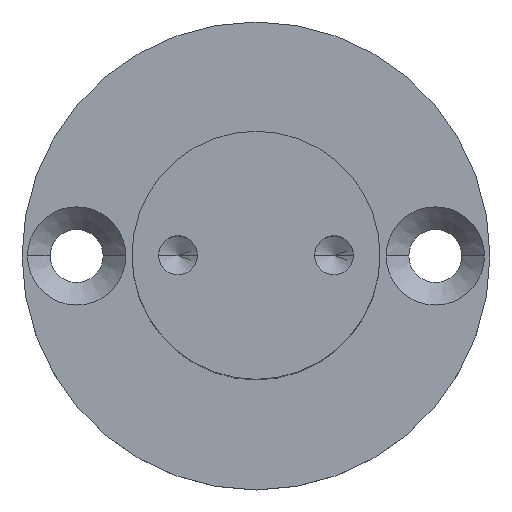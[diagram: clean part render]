
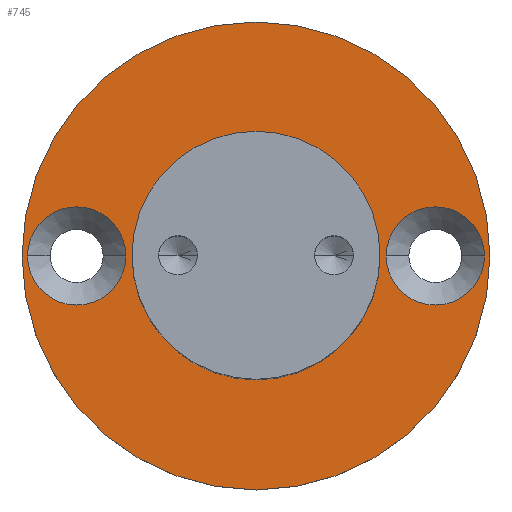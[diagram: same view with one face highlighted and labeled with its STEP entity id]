
A CAD part, top view. The second image highlights one B-rep face of the part: STEP entity #745.
In plain terms, the highlighted planar face has unit normal (0, 0, 1).
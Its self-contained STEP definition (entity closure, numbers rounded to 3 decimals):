
#30 = DIRECTION ( 'NONE',  ( 1., 0., 0. ) ) ;
#40 = VERTEX_POINT ( 'NONE', #381 ) ;
#43 = ORIENTED_EDGE ( 'NONE', *, *, #547, .T. ) ;
#44 = EDGE_CURVE ( 'NONE', #411, #563, #175, .T. ) ;
#54 = DIRECTION ( 'NONE',  ( 0., 0., 1. ) ) ;
#62 = CIRCLE ( 'NONE', #679, 7.95 ) ;
#70 = CARTESIAN_POINT ( 'NONE',  ( 7.95, 0., 5.5 ) ) ;
#88 = ORIENTED_EDGE ( 'NONE', *, *, #405, .F. ) ;
#93 = CIRCLE ( 'NONE', #768, 3.15 ) ;
#96 = ORIENTED_EDGE ( 'NONE', *, *, #733, .F. ) ;
#98 = DIRECTION ( 'NONE',  ( 1., 0., 0. ) ) ;
#105 = EDGE_LOOP ( 'NONE', ( #651, #232 ) ) ;
#115 = CARTESIAN_POINT ( 'NONE',  ( 0., 0., 5.5 ) ) ;
#125 = DIRECTION ( 'NONE',  ( 1., 0., 0. ) ) ;
#128 = AXIS2_PLACEMENT_3D ( 'NONE', #732, #246, #354 ) ;
#137 = CARTESIAN_POINT ( 'NONE',  ( -7.95, 0., 5.5 ) ) ;
#145 = CARTESIAN_POINT ( 'NONE',  ( 0., 0., 5.5 ) ) ;
#163 = DIRECTION ( 'NONE',  ( 1., 0., 0. ) ) ;
#175 = CIRCLE ( 'NONE', #527, 15. ) ;
#184 = FACE_OUTER_BOUND ( 'NONE', #608, .T. ) ;
#194 = DIRECTION ( 'NONE',  ( 0., 0., 1. ) ) ;
#202 = CARTESIAN_POINT ( 'NONE',  ( 14.65, 0., 5.5 ) ) ;
#214 = EDGE_CURVE ( 'NONE', #40, #422, #341, .T. ) ;
#229 = CARTESIAN_POINT ( 'NONE',  ( 15., 0., 5.5 ) ) ;
#230 = AXIS2_PLACEMENT_3D ( 'NONE', #115, #595, #125 ) ;
#232 = ORIENTED_EDGE ( 'NONE', *, *, #402, .F. ) ;
#233 = CARTESIAN_POINT ( 'NONE',  ( -14.65, 0., 5.5 ) ) ;
#234 = FACE_BOUND ( 'NONE', #452, .T. ) ;
#246 = DIRECTION ( 'NONE',  ( 0., 0., 1. ) ) ;
#247 = CARTESIAN_POINT ( 'NONE',  ( 11.5, 0., 5.5 ) ) ;
#250 = EDGE_CURVE ( 'NONE', #641, #602, #62, .T. ) ;
#273 = AXIS2_PLACEMENT_3D ( 'NONE', #247, #54, #541 ) ;
#283 = DIRECTION ( 'NONE',  ( 0., 0., 1. ) ) ;
#341 = CIRCLE ( 'NONE', #366, 3.15 ) ;
#349 = PLANE ( 'NONE',  #230 ) ;
#354 = DIRECTION ( 'NONE',  ( 1., 0., 0. ) ) ;
#361 = DIRECTION ( 'NONE',  ( 1., 0., 0. ) ) ;
#366 = AXIS2_PLACEMENT_3D ( 'NONE', #525, #283, #163 ) ;
#369 = ORIENTED_EDGE ( 'NONE', *, *, #214, .F. ) ;
#379 = EDGE_LOOP ( 'NONE', ( #369, #526 ) ) ;
#380 = CARTESIAN_POINT ( 'NONE',  ( 0., 0., 5.5 ) ) ;
#381 = CARTESIAN_POINT ( 'NONE',  ( -8.35, 0., 5.5 ) ) ;
#402 = EDGE_CURVE ( 'NONE', #602, #641, #728, .T. ) ;
#405 = EDGE_CURVE ( 'NONE', #726, #542, #93, .T. ) ;
#411 = VERTEX_POINT ( 'NONE', #229 ) ;
#422 = VERTEX_POINT ( 'NONE', #233 ) ;
#427 = FACE_BOUND ( 'NONE', #105, .T. ) ;
#436 = DIRECTION ( 'NONE',  ( 1., 0., 0. ) ) ;
#452 = EDGE_LOOP ( 'NONE', ( #96, #88 ) ) ;
#459 = CIRCLE ( 'NONE', #656, 15. ) ;
#473 = AXIS2_PLACEMENT_3D ( 'NONE', #783, #535, #361 ) ;
#474 = CARTESIAN_POINT ( 'NONE',  ( 11.5, 0., 5.5 ) ) ;
#475 = FACE_BOUND ( 'NONE', #379, .T. ) ;
#500 = CIRCLE ( 'NONE', #273, 3.15 ) ;
#508 = DIRECTION ( 'NONE',  ( 0., 0., 1. ) ) ;
#525 = CARTESIAN_POINT ( 'NONE',  ( -11.5, 0., 5.5 ) ) ;
#526 = ORIENTED_EDGE ( 'NONE', *, *, #687, .F. ) ;
#527 = AXIS2_PLACEMENT_3D ( 'NONE', #145, #508, #30 ) ;
#535 = DIRECTION ( 'NONE',  ( 0., 0., 1. ) ) ;
#541 = DIRECTION ( 'NONE',  ( 1., 0., 0. ) ) ;
#542 = VERTEX_POINT ( 'NONE', #202 ) ;
#546 = ORIENTED_EDGE ( 'NONE', *, *, #44, .T. ) ;
#547 = EDGE_CURVE ( 'NONE', #563, #411, #459, .T. ) ;
#563 = VERTEX_POINT ( 'NONE', #638 ) ;
#595 = DIRECTION ( 'NONE',  ( 0., 0., 1. ) ) ;
#598 = CIRCLE ( 'NONE', #473, 3.15 ) ;
#602 = VERTEX_POINT ( 'NONE', #137 ) ;
#608 = EDGE_LOOP ( 'NONE', ( #43, #546 ) ) ;
#638 = CARTESIAN_POINT ( 'NONE',  ( -15., 0., 5.5 ) ) ;
#641 = VERTEX_POINT ( 'NONE', #70 ) ;
#651 = ORIENTED_EDGE ( 'NONE', *, *, #250, .F. ) ;
#652 = DIRECTION ( 'NONE',  ( 0., 0., 1. ) ) ;
#656 = AXIS2_PLACEMENT_3D ( 'NONE', #380, #194, #436 ) ;
#660 = DIRECTION ( 'NONE',  ( 0., 0., 1. ) ) ;
#661 = CARTESIAN_POINT ( 'NONE',  ( 8.35, 0., 5.5 ) ) ;
#673 = DIRECTION ( 'NONE',  ( 1., 0., 0. ) ) ;
#679 = AXIS2_PLACEMENT_3D ( 'NONE', #767, #652, #98 ) ;
#687 = EDGE_CURVE ( 'NONE', #422, #40, #598, .T. ) ;
#726 = VERTEX_POINT ( 'NONE', #661 ) ;
#728 = CIRCLE ( 'NONE', #128, 7.95 ) ;
#732 = CARTESIAN_POINT ( 'NONE',  ( 0., 0., 5.5 ) ) ;
#733 = EDGE_CURVE ( 'NONE', #542, #726, #500, .T. ) ;
#745 = ADVANCED_FACE ( 'NONE', ( #234, #475, #427, #184 ), #349, .T. ) ;
#767 = CARTESIAN_POINT ( 'NONE',  ( 0., 0., 5.5 ) ) ;
#768 = AXIS2_PLACEMENT_3D ( 'NONE', #474, #660, #673 ) ;
#783 = CARTESIAN_POINT ( 'NONE',  ( -11.5, 0., 5.5 ) ) ;
